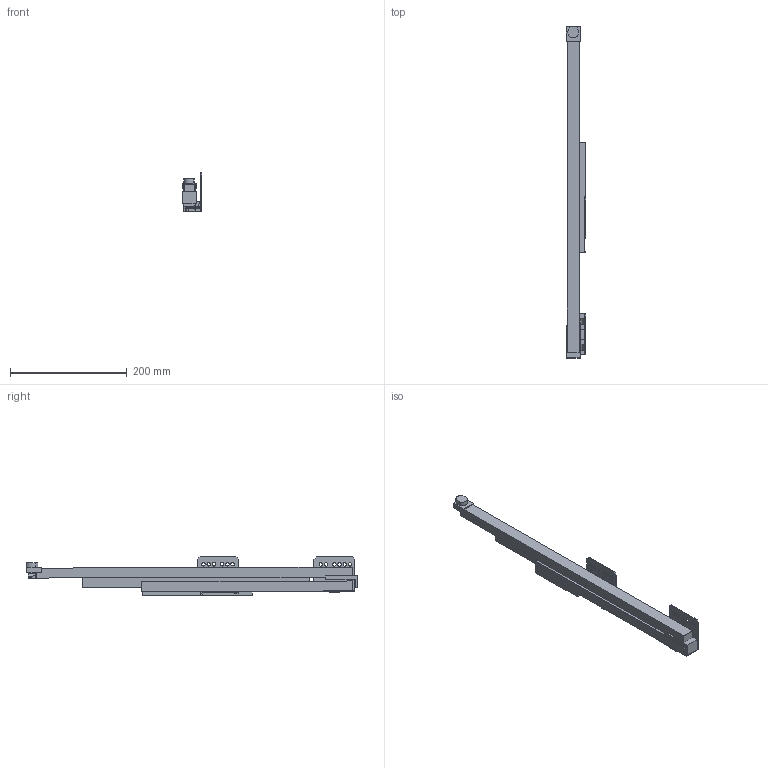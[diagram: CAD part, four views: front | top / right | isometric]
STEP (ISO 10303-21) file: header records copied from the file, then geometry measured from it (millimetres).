
FILE_DESCRIPTION (( 'STEP AP214' ), '1' );
FILE_NAME ('_IMOS Dynamic-XP VA 40kg NL550 RE Tipmatic.step', '2010-07-08T13:26:43', ( 'grass' ), ( '' ), 'SwSTEP 2.0', 'SolidWorks 2010', '' );
FILE_SCHEMA (( 'AUTOMOTIVE_DESIGN' ));
Length unit declared in the file: millimetre
Products named in the file (1): _IMOS Dynamic-XP VA 40kg NL550 RE Tipmatic
Bounding box: 33.14 x 568.02 x 66.67 mm (x, y, z)
Volume: 440300.4 mm3; surface area: 157694.8 mm2
Topology: 8 solids, 8 shells, 184 faces, 496 edges, 330 vertices
Faces by surface type: plane 137, cylinder 47
Entity records: 5917 total; most frequent: CARTESIAN_POINT 1011, ORIENTED_EDGE 992, DIRECTION 962, EDGE_CURVE 496, LINE 400, VECTOR 400, VERTEX_POINT 330, AXIS2_PLACEMENT_3D 281
